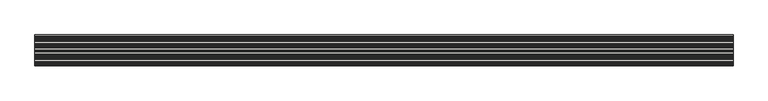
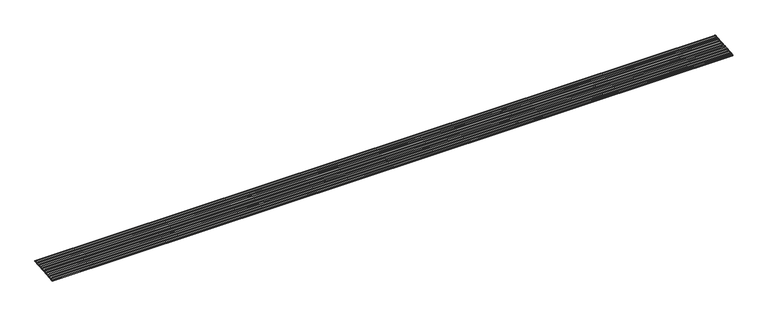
"""IFC4 building model written with IfcOpenShell, lengths in millimetres: slab geometry, ROSA GRES_001 (2 filas) : Piezas 001_Aqua_Blanco_Anti-Slip."""

from ifc_helpers import new_model, si_unit, point, frame, frame_2d, origin, place, context, project, spatial, polyline, circle_curve, trimmed, segment, composite_curve, outline, extrude, source, transform, mapped, element, save


def slab_20dd2a74(model_context):
    return source(origin(), model_context, "Body", "SweptSolid", [
        extrude(outline(polyline([(59.4997999, 0.0), (-59.4998, 0.0), (-59.4998, 5498.835331), (59.4997999, 5498.835331), (59.4997999, 0.0)])), frame((5498.835331, 183.3614376, 204.5238637), z_axis=(0.0, -0.08112705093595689, 0.9967037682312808), x_axis=(0.0, 0.9967037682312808, 0.08112705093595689)), (0.0, 0.0, 1.0), 5.0),
        extrude(outline(polyline([(59.4998, 0.0), (-59.4997999, 0.0), (-59.4997999, 5498.835331), (59.4998, 5498.835331), (59.4998, 0.0)])), frame((5498.835331, 307.9490099, 214.6647126), z_axis=(0.0, -0.08112705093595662, 0.9967037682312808), x_axis=(0.0, 0.9967037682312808, 0.08112705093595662)), (0.0, 0.0, 1.0), 5.0),
        extrude(outline(composite_curve([segment(polyline([(242.2594772, 214.3344258), (123.6521274, 204.6803392), (123.4389282, 207.2996439)]), True, "CONTINUOUS"), segment(trimmed(circle_curve(frame_2d((122.9853249, 212.8724843)), 5.5912705), [point((123.4389282, 207.2996439))], [point((127.5160501, 209.5960785))], True, "CARTESIAN"), True, "CONTINUOUS"), segment(trimmed(circle_curve(frame_2d((131.4572785, 213.5620619)), 5.5912705), [point((127.5160501, 209.5960785))], [point((135.9880037, 210.2856561))], True, "CARTESIAN"), True, "CONTINUOUS"), segment(trimmed(circle_curve(frame_2d((139.929232, 214.2516395)), 5.5912705), [point((135.9880037, 210.2856561))], [point((144.4599572, 210.9752337))], True, "CARTESIAN"), True, "CONTINUOUS"), segment(trimmed(circle_curve(frame_2d((148.4011856, 214.9412171)), 5.5912705), [point((144.4599572, 210.9752337))], [point((152.9319108, 211.6648113))], True, "CARTESIAN"), True, "CONTINUOUS"), segment(trimmed(circle_curve(frame_2d((156.8731392, 215.6307947)), 5.5912705), [point((152.9319108, 211.6648113))], [point((161.4038643, 212.3543889))], True, "CARTESIAN"), True, "CONTINUOUS"), segment(trimmed(circle_curve(frame_2d((165.3450927, 216.3203723)), 5.5912705), [point((161.4038643, 212.3543889))], [point((169.8758179, 213.0439666))], True, "CARTESIAN"), True, "CONTINUOUS"), segment(trimmed(circle_curve(frame_2d((173.8170463, 217.00995)), 5.5912705), [point((169.8758179, 213.0439666))], [point((178.3477714, 213.7335442))], True, "CARTESIAN"), True, "CONTINUOUS"), segment(trimmed(circle_curve(frame_2d((182.2889998, 217.6995276)), 5.5912705), [point((178.3477714, 213.7335442))], [point((186.819725, 214.4231218))], True, "CARTESIAN"), True, "CONTINUOUS"), segment(trimmed(circle_curve(frame_2d((190.7609534, 218.3891052)), 5.5912705), [point((186.819725, 214.4231218))], [point((195.2916785, 215.1126994))], True, "CARTESIAN"), True, "CONTINUOUS"), segment(trimmed(circle_curve(frame_2d((199.2329069, 219.0786828)), 5.5912705), [point((195.2916785, 215.1126994))], [point((203.7636321, 215.802277))], True, "CARTESIAN"), True, "CONTINUOUS"), segment(trimmed(circle_curve(frame_2d((207.7048605, 219.7682604)), 5.5912705), [point((203.7636321, 215.802277))], [point((212.2355856, 216.4918546))], True, "CARTESIAN"), True, "CONTINUOUS"), segment(trimmed(circle_curve(frame_2d((216.176814, 220.457838)), 5.5912705), [point((212.2355856, 216.4918546))], [point((220.7075392, 217.1814322))], True, "CARTESIAN"), True, "CONTINUOUS"), segment(trimmed(circle_curve(frame_2d((224.6487676, 221.1474157)), 5.5912705), [point((220.7075392, 217.1814322))], [point((229.1794928, 217.8710099))], True, "CARTESIAN"), True, "CONTINUOUS"), segment(trimmed(circle_curve(frame_2d((233.1207211, 221.8369933)), 5.5912705), [point((229.1794928, 217.8710099))], [point((237.6514463, 218.5605875))], True, "CARTESIAN"), True, "CONTINUOUS"), segment(trimmed(circle_curve(frame_2d((241.5926747, 222.5265709)), 5.5912705), [point((237.6514463, 218.5605875))], [point((242.046278, 216.9537305))], True, "CARTESIAN"), True, "CONTINUOUS"), segment(polyline([(242.046278, 216.9537305), (242.2594772, 214.3344258)]), True, "CONTINUOUS")], self_intersect=False)), frame((0.0, 0.0, 0.0), z_axis=(1.0, 0.0, 0.0), x_axis=(0.0, 1.0, 0.0)), (0.0, 0.0, 1.0), 5498.835331),
        extrude(outline(composite_curve([segment(polyline([(366.8470495, 224.4752747), (248.2396998, 214.8211881), (248.0265006, 217.4404928)]), True, "CONTINUOUS"), segment(trimmed(circle_curve(frame_2d((247.5728973, 223.0133332)), 5.5912705), [point((248.0265006, 217.4404928))], [point((252.1036225, 219.7369274))], True, "CARTESIAN"), True, "CONTINUOUS"), segment(trimmed(circle_curve(frame_2d((256.0448508, 223.7029108)), 5.5912705), [point((252.1036225, 219.7369274))], [point((260.575576, 220.426505))], True, "CARTESIAN"), True, "CONTINUOUS"), segment(trimmed(circle_curve(frame_2d((264.5168044, 224.3924884)), 5.5912705), [point((260.575576, 220.426505))], [point((269.0475296, 221.1160826))], True, "CARTESIAN"), True, "CONTINUOUS"), segment(trimmed(circle_curve(frame_2d((272.9887579, 225.082066)), 5.5912705), [point((269.0475296, 221.1160826))], [point((277.5194831, 221.8056602))], True, "CARTESIAN"), True, "CONTINUOUS"), segment(trimmed(circle_curve(frame_2d((281.4607115, 225.7716436)), 5.5912705), [point((277.5194831, 221.8056602))], [point((285.9914367, 222.4952379))], True, "CARTESIAN"), True, "CONTINUOUS"), segment(trimmed(circle_curve(frame_2d((289.9326651, 226.4612213)), 5.5912705), [point((285.9914367, 222.4952379))], [point((294.4633902, 223.1848155))], True, "CARTESIAN"), True, "CONTINUOUS"), segment(trimmed(circle_curve(frame_2d((298.4046186, 227.1507989)), 5.5912705), [point((294.4633902, 223.1848155))], [point((302.9353438, 223.8743931))], True, "CARTESIAN"), True, "CONTINUOUS"), segment(trimmed(circle_curve(frame_2d((306.8765722, 227.8403765)), 5.5912705), [point((302.9353438, 223.8743931))], [point((311.4072973, 224.5639707))], True, "CARTESIAN"), True, "CONTINUOUS"), segment(trimmed(circle_curve(frame_2d((315.3485257, 228.5299541)), 5.5912705), [point((311.4072973, 224.5639707))], [point((319.8792509, 225.2535483))], True, "CARTESIAN"), True, "CONTINUOUS"), segment(trimmed(circle_curve(frame_2d((323.8204793, 229.2195317)), 5.5912705), [point((319.8792509, 225.2535483))], [point((328.3512044, 225.9431259))], True, "CARTESIAN"), True, "CONTINUOUS"), segment(trimmed(circle_curve(frame_2d((332.2924328, 229.9091093)), 5.5912705), [point((328.3512044, 225.9431259))], [point((336.823158, 226.6327035))], True, "CARTESIAN"), True, "CONTINUOUS"), segment(trimmed(circle_curve(frame_2d((340.7643864, 230.5986869)), 5.5912705), [point((336.823158, 226.6327035))], [point((345.2951115, 227.3222812))], True, "CARTESIAN"), True, "CONTINUOUS"), segment(trimmed(circle_curve(frame_2d((349.2363399, 231.2882646)), 5.5912705), [point((345.2951115, 227.3222812))], [point((353.7670651, 228.0118588))], True, "CARTESIAN"), True, "CONTINUOUS"), segment(trimmed(circle_curve(frame_2d((357.7082935, 231.9778422)), 5.5912705), [point((353.7670651, 228.0118588))], [point((362.2390187, 228.7014364))], True, "CARTESIAN"), True, "CONTINUOUS"), segment(trimmed(circle_curve(frame_2d((366.180247, 232.6674198)), 5.5912705), [point((362.2390187, 228.7014364))], [point((366.6338503, 227.0945794))], True, "CARTESIAN"), True, "CONTINUOUS"), segment(polyline([(366.6338503, 227.0945794), (366.8470495, 224.4752747)]), True, "CONTINUOUS")], self_intersect=False)), frame((0.0, 0.0, 0.0), z_axis=(1.0, 0.0, 0.0), x_axis=(0.0, 1.0, 0.0)), (0.0, 0.0, 1.0), 5498.835331),
    ])


if __name__ == "__main__":
    model = new_model("IFC4")
    model_context = context("Model", 3, world=origin())
    ifc_project = project(units=[si_unit("LENGTHUNIT", "METRE", prefix="MILLI")], contexts=[model_context])
    site = spatial("IfcSite", under=ifc_project)
    building = spatial("IfcBuilding", under=site)
    placement = place(None, origin())
    slab_shape = slab_20dd2a74(model_context)
    element("IfcSlab", 1, ObjectType="ROSA GRES_001 (2 filas) : Piezas 001_Aqua_Blanco_Anti-Slip", at=placement, inside=building, context=model_context, shape_type="MappedRepresentation", body=[
        mapped(slab_shape, transform((0.0, 0.0, 0.0), x_axis=(1.0, 0.0, 0.0), y_axis=(0.0, 1.0, 0.0), z_axis=(0.0, 0.0, 1.0))),
    ])
    save(model, "model.ifc")
